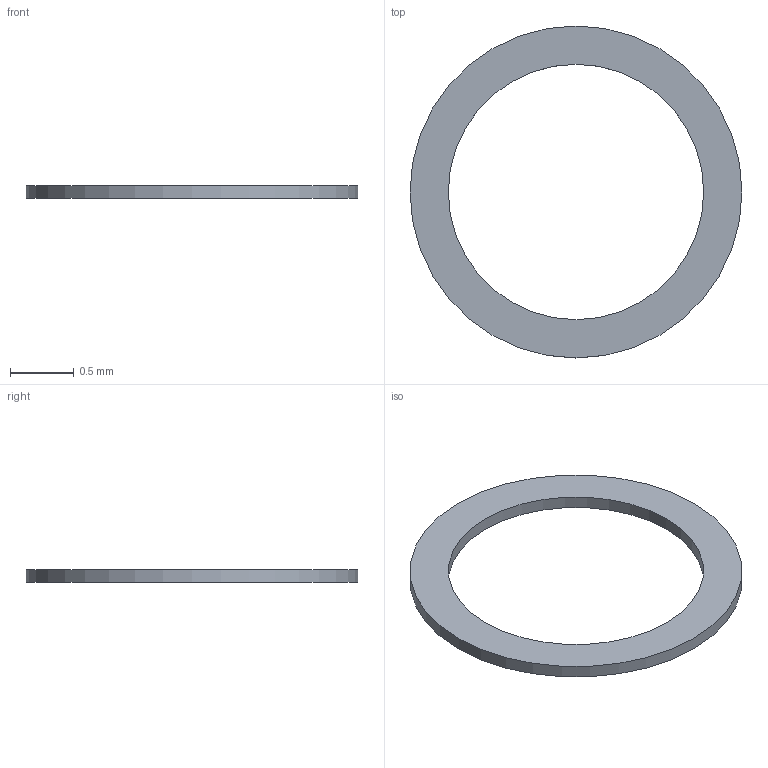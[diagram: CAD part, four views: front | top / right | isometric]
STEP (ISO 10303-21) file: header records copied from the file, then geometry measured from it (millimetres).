
FILE_DESCRIPTION(('Open CASCADE Model'),'2;1');
FILE_NAME('Open CASCADE Shape Model','2026-10-24T17:46:06',('Author'),( 'Open CASCADE'),'Open CASCADE STEP processor 8.0','Open CASCADE 8.0' ,'Unknown');
FILE_SCHEMA(('AUTOMOTIVE_DESIGN { 1 0 10303 214 1 1 1 1 }'));
Length unit declared in the file: millimetre
Products named in the file (1): Open CASCADE STEP translator 8.0 35
Bounding box: 2.6 x 2.6 x 0.1 mm (x, y, z)
Volume: 0.2 mm3; surface area: 5.8 mm2
Topology: 1 solids, 1 shells, 4 faces, 6 edges, 4 vertices
Faces by surface type: cylinder 2, plane 2
Full cylindrical faces by diameter (mm): 2 x1, 2.6 x1
Entity records: 186 total; most frequent: DIRECTION 32, CARTESIAN_POINT 27, ORIENTED_EDGE 12, PCURVE 12, DEFINITIONAL_REPRESENTATION 12, LINE 10, VECTOR 10, AXIS2_PLACEMENT_3D 9
